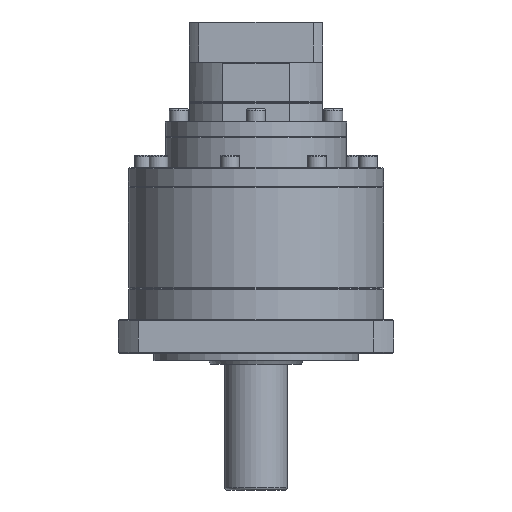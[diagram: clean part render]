
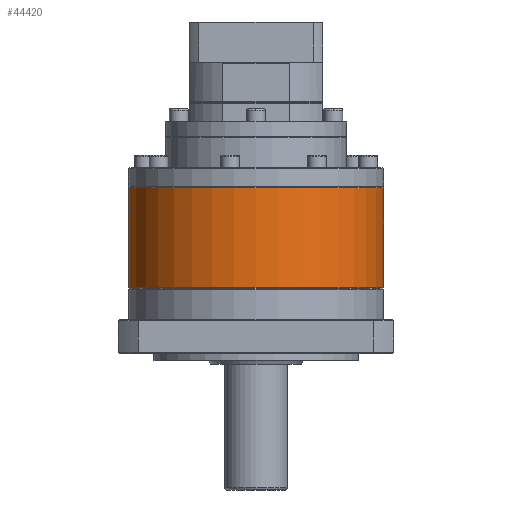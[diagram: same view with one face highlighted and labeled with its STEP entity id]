
A CAD part, front view. The second image highlights one B-rep face of the part: STEP entity #44420.
In plain terms, the highlighted cylindrical face has radius 81 mm (diameter 162 mm), a partial arc.
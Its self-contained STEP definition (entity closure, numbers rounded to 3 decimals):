
#1485 = LINE ( 'NONE', #1781, #103216 ) ;
#1781 = CARTESIAN_POINT ( 'NONE',  ( -150.621, 105.399, -173.788 ) ) ;
#11001 = CARTESIAN_POINT ( 'NONE',  ( 11.379, 105.399, -173.788 ) ) ;
#11763 = DIRECTION ( 'NONE',  ( -1., 0., 0. ) ) ;
#16586 = EDGE_LOOP ( 'NONE', ( #46266, #113859, #47975, #79824 ) ) ;
#21019 = CARTESIAN_POINT ( 'NONE',  ( -150.621, 105.399, -237.788 ) ) ;
#27144 = CARTESIAN_POINT ( 'NONE',  ( 11.379, 105.399, -174.288 ) ) ;
#27857 = CARTESIAN_POINT ( 'NONE',  ( -69.621, 105.399, -174.288 ) ) ;
#28662 = VERTEX_POINT ( 'NONE', #31735 ) ;
#31735 = CARTESIAN_POINT ( 'NONE',  ( 11.379, 105.399, -237.788 ) ) ;
#37148 = EDGE_CURVE ( 'NONE', #72036, #28662, #83542, .T. ) ;
#37971 = EDGE_CURVE ( 'NONE', #133874, #28662, #84016, .T. ) ;
#43658 = DIRECTION ( 'NONE',  ( 0., 0., -1. ) ) ;
#44420 = ADVANCED_FACE ( 'NONE', ( #62593 ), #55667, .T. ) ;
#44635 = AXIS2_PLACEMENT_3D ( 'NONE', #27857, #49200, #104072 ) ;
#45087 = CARTESIAN_POINT ( 'NONE',  ( -69.621, 105.399, -237.788 ) ) ;
#46266 = ORIENTED_EDGE ( 'NONE', *, *, #37971, .F. ) ;
#47216 = DIRECTION ( 'NONE',  ( -1., 0., 0. ) ) ;
#47975 = ORIENTED_EDGE ( 'NONE', *, *, #62793, .T. ) ;
#49200 = DIRECTION ( 'NONE',  ( 0., 0., -1. ) ) ;
#55667 = CYLINDRICAL_SURFACE ( 'NONE', #140219, 81. ) ;
#62593 = FACE_OUTER_BOUND ( 'NONE', #16586, .T. ) ;
#62793 = EDGE_CURVE ( 'NONE', #135131, #72036, #1485, .T. ) ;
#68816 = VECTOR ( 'NONE', #119486, 1000. ) ;
#72036 = VERTEX_POINT ( 'NONE', #21019 ) ;
#75721 = DIRECTION ( 'NONE',  ( 0., 0., -1. ) ) ;
#79824 = ORIENTED_EDGE ( 'NONE', *, *, #37148, .T. ) ;
#83542 = CIRCLE ( 'NONE', #124158, 81. ) ;
#84016 = LINE ( 'NONE', #11001, #68816 ) ;
#97130 = CIRCLE ( 'NONE', #44635, 81. ) ;
#97952 = CARTESIAN_POINT ( 'NONE',  ( -69.621, 105.399, -173.788 ) ) ;
#103216 = VECTOR ( 'NONE', #43658, 1000. ) ;
#104072 = DIRECTION ( 'NONE',  ( -1., 0., 0. ) ) ;
#108974 = DIRECTION ( 'NONE',  ( 0., 0., 1. ) ) ;
#111922 = CARTESIAN_POINT ( 'NONE',  ( -150.621, 105.399, -174.288 ) ) ;
#113859 = ORIENTED_EDGE ( 'NONE', *, *, #131003, .T. ) ;
#119486 = DIRECTION ( 'NONE',  ( 0., 0., -1. ) ) ;
#124158 = AXIS2_PLACEMENT_3D ( 'NONE', #45087, #108974, #11763 ) ;
#131003 = EDGE_CURVE ( 'NONE', #133874, #135131, #97130, .T. ) ;
#133874 = VERTEX_POINT ( 'NONE', #27144 ) ;
#135131 = VERTEX_POINT ( 'NONE', #111922 ) ;
#140219 = AXIS2_PLACEMENT_3D ( 'NONE', #97952, #75721, #47216 ) ;
